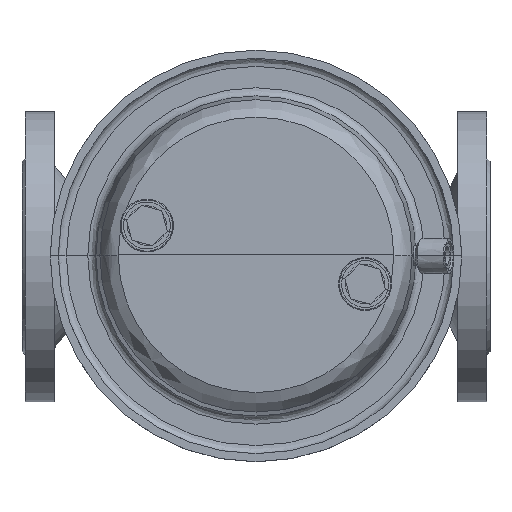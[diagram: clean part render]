
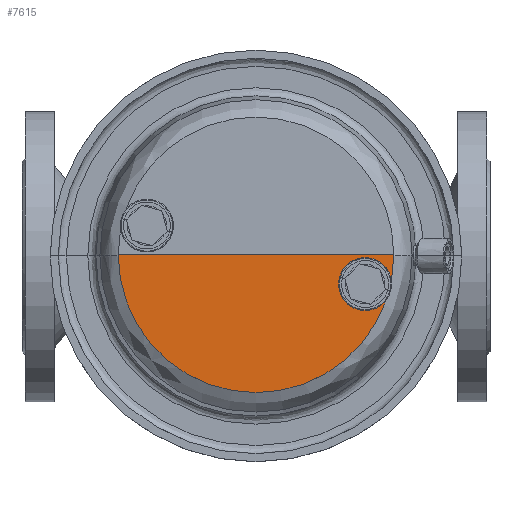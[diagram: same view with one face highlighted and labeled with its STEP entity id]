
A CAD part, top view. The second image highlights one B-rep face of the part: STEP entity #7615.
In plain terms, the highlighted planar face has unit normal (0, 0, 1).
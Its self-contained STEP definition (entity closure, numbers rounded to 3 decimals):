
#514=LINE('',#14700,#870);
#870=VECTOR('',#10251,304.8);
#1523=FACE_OUTER_BOUND('',#2079,.T.);
#2079=EDGE_LOOP('',(#5709,#5710));
#2722=CIRCLE('',#8482,85.362);
#3291=VERTEX_POINT('',#14697);
#3292=VERTEX_POINT('',#14698);
#4102=EDGE_CURVE('',#3292,#3291,#514,.T.);
#4103=EDGE_CURVE('',#3292,#3291,#2722,.T.);
#5709=ORIENTED_EDGE('',*,*,#4103,.T.);
#5710=ORIENTED_EDGE('',*,*,#4102,.F.);
#6713=PLANE('',#8481);
#7615=ADVANCED_FACE('',(#1523),#6713,.F.);
#8481=AXIS2_PLACEMENT_3D('',#14701,#10252,#10253);
#8482=AXIS2_PLACEMENT_3D('',#14702,#10254,#10255);
#10251=DIRECTION('',(1.,0.,0.));
#10252=DIRECTION('center_axis',(0.,0.,-1.));
#10253=DIRECTION('ref_axis',(-1.,0.,0.));
#10254=DIRECTION('center_axis',(0.,0.,1.));
#10255=DIRECTION('ref_axis',(-1.,0.,0.));
#14697=CARTESIAN_POINT('',(85.362,0.,566.029));
#14698=CARTESIAN_POINT('',(-85.362,0.,566.029));
#14700=CARTESIAN_POINT('',(-85.362,0.,566.029));
#14701=CARTESIAN_POINT('Origin',(0.,0.,566.029));
#14702=CARTESIAN_POINT('Origin',(0.,0.,566.029));
